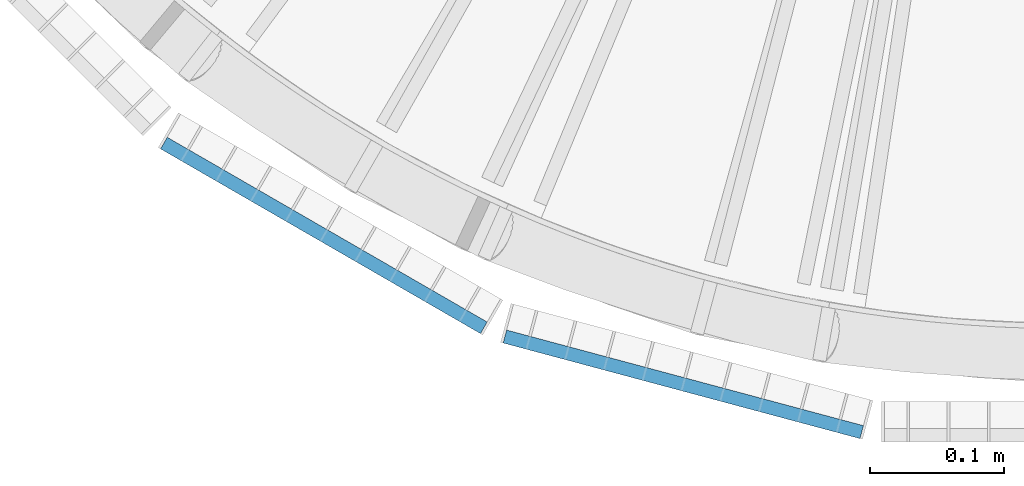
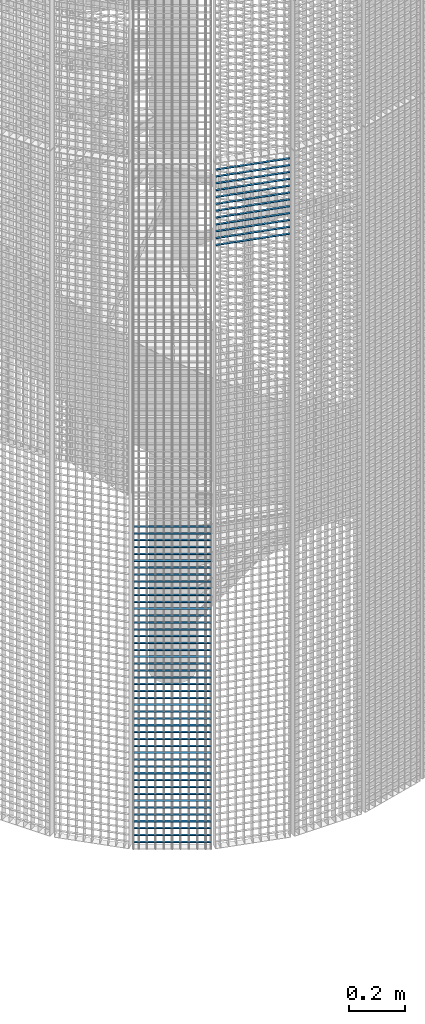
# One storey, part 371 of 1148: 59 beams, 2 elements without a shape of their own.
"""IFC2X3 building model written with IfcOpenShell, lengths in millimetres."""

from ifc_helpers import new_model, si_unit, frame, origin_with_axes, origin_2d_with_axis, place, context, subcontext, project, spatial, rectangle, extrude, material, type_object, element, aggregate, save


model = new_model("IFC2X3")

# Units and contexts
model_context = context("Model", 3, precision=1e-05, world=origin_with_axes())
body_context = subcontext(model_context, "Body", "Model", "MODEL_VIEW")
ifc_project = project(units=[si_unit("LENGTHUNIT", "METRE", prefix="MILLI"), si_unit("AREAUNIT", "SQUARE_METRE"), si_unit("VOLUMEUNIT", "CUBIC_METRE"), si_unit("MASSUNIT", "GRAM", prefix="KILO"), si_unit("TIMEUNIT", "SECOND"), si_unit("PLANEANGLEUNIT", "RADIAN"), si_unit("SOLIDANGLEUNIT", "STERADIAN"), si_unit("THERMODYNAMICTEMPERATUREUNIT", "DEGREE_CELSIUS"), si_unit("LUMINOUSINTENSITYUNIT", "LUMEN")], contexts=[model_context])

# Site, building, storey
site_placement = place(None, origin_with_axes())
site = spatial("IfcSite", under=ifc_project, at=site_placement, Name="Undefined", CompositionType="ELEMENT")
building_placement = place(site_placement, origin_with_axes())
building = spatial("IfcBuilding", under=site, at=building_placement, Name="Undefined", CompositionType="ELEMENT")
storey_placement = place(building_placement, origin_with_axes())
storey = spatial("IfcBuildingStorey", under=building, at=storey_placement, Name="Undefined", CompositionType="ELEMENT", Elevation=0.0)

# Assembly, beams
assembly_1_placement = place(storey_placement, origin_with_axes())
assembly_1 = element("IfcElementAssembly", 1, at=assembly_1_placement, inside=storey, Name="BORDURE", AssemblyPlace="NOTDEFINED", PredefinedType="NOTDEFINED")
ifc_material = material(Name="STEEL/S235JR")
beam_type = type_object("IfcBeamType", Name="PL2*10", PredefinedType="NOTDEFINED")
beam_1_placement = place(assembly_1_placement, frame((21162.7680445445, -1033.29996828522, 1410.0), z_axis=(-0.49999999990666, -0.866025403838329, 0.0), x_axis=(-0.866025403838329, 0.499999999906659, 0.0)))
beam_1 = element("IfcBeam", 2, at=beam_1_placement, type_object=beam_type, material=ifc_material, Name="ENTRETOISE", context=body_context, shape_type="SweptSolid", body=[
    extrude(rectangle(XDim=2.0, YDim=10.0, at=origin_2d_with_axis()), frame((275.999999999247, 9.09494701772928e-13, 1.53210777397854e-14), z_axis=(-1.0, 0.0, 0.0), x_axis=(0.0, -1.0, 0.0)), (0.0, 0.0, 1.0), 276.0),
])
beam_2_placement = place(assembly_1_placement, frame((21162.7680445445, -1033.29996828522, 1380.0), z_axis=(-0.49999999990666, -0.866025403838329, 0.0), x_axis=(-0.866025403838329, 0.499999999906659, 0.0)))
beam_2 = element("IfcBeam", 3, at=beam_2_placement, type_object=beam_type, material=ifc_material, Name="ENTRETOISE", context=body_context, shape_type="SweptSolid", body=[
    extrude(rectangle(XDim=2.0, YDim=10.0, at=origin_2d_with_axis()), frame((275.999999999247, 9.09494701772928e-13, 1.53210777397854e-14), z_axis=(-1.0, 0.0, 0.0), x_axis=(0.0, -1.0, 0.0)), (0.0, 0.0, 1.0), 276.0),
])
beam_3_placement = place(assembly_1_placement, frame((21162.7680445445, -1033.29996828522, 1350.0), z_axis=(-0.49999999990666, -0.866025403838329, 0.0), x_axis=(-0.866025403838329, 0.499999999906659, 0.0)))
beam_3 = element("IfcBeam", 4, at=beam_3_placement, type_object=beam_type, material=ifc_material, Name="ENTRETOISE", context=body_context, shape_type="SweptSolid", body=[
    extrude(rectangle(XDim=2.0, YDim=10.0, at=origin_2d_with_axis()), frame((275.999999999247, 9.09494701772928e-13, 1.53210777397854e-14), z_axis=(-1.0, 0.0, 0.0), x_axis=(0.0, -1.0, 0.0)), (0.0, 0.0, 1.0), 276.0),
])
beam_4_placement = place(assembly_1_placement, frame((21162.7680445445, -1033.29996828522, 1320.0), z_axis=(-0.49999999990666, -0.866025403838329, 0.0), x_axis=(-0.866025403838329, 0.499999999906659, 0.0)))
beam_4 = element("IfcBeam", 5, at=beam_4_placement, type_object=beam_type, material=ifc_material, Name="ENTRETOISE", context=body_context, shape_type="SweptSolid", body=[
    extrude(rectangle(XDim=2.0, YDim=10.0, at=origin_2d_with_axis()), frame((275.999999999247, 9.09494701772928e-13, 1.53210777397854e-14), z_axis=(-1.0, 0.0, 0.0), x_axis=(0.0, -1.0, 0.0)), (0.0, 0.0, 1.0), 276.0),
])
beam_5_placement = place(assembly_1_placement, frame((21162.7680445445, -1033.29996828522, 1290.0), z_axis=(-0.49999999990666, -0.866025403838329, 0.0), x_axis=(-0.866025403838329, 0.499999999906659, 0.0)))
beam_5 = element("IfcBeam", 6, at=beam_5_placement, type_object=beam_type, material=ifc_material, Name="ENTRETOISE", context=body_context, shape_type="SweptSolid", body=[
    extrude(rectangle(XDim=2.0, YDim=10.0, at=origin_2d_with_axis()), frame((275.999999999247, 9.09494701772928e-13, 1.53210777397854e-14), z_axis=(-1.0, 0.0, 0.0), x_axis=(0.0, -1.0, 0.0)), (0.0, 0.0, 1.0), 276.0),
])
beam_6_placement = place(assembly_1_placement, frame((21162.7680445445, -1033.29996828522, 1260.0), z_axis=(-0.49999999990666, -0.866025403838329, 0.0), x_axis=(-0.866025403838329, 0.499999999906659, 0.0)))
beam_6 = element("IfcBeam", 7, at=beam_6_placement, type_object=beam_type, material=ifc_material, Name="ENTRETOISE", context=body_context, shape_type="SweptSolid", body=[
    extrude(rectangle(XDim=2.0, YDim=10.0, at=origin_2d_with_axis()), frame((275.999999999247, 9.09494701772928e-13, 1.53210777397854e-14), z_axis=(-1.0, 0.0, 0.0), x_axis=(0.0, -1.0, 0.0)), (0.0, 0.0, 1.0), 276.0),
])
beam_7_placement = place(assembly_1_placement, frame((21162.7680445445, -1033.29996828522, 1230.0), z_axis=(-0.49999999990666, -0.866025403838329, 0.0), x_axis=(-0.866025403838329, 0.499999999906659, 0.0)))
beam_7 = element("IfcBeam", 8, at=beam_7_placement, type_object=beam_type, material=ifc_material, Name="ENTRETOISE", context=body_context, shape_type="SweptSolid", body=[
    extrude(rectangle(XDim=2.0, YDim=10.0, at=origin_2d_with_axis()), frame((275.999999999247, 9.09494701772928e-13, 1.53210777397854e-14), z_axis=(-1.0, 0.0, 0.0), x_axis=(0.0, -1.0, 0.0)), (0.0, 0.0, 1.0), 276.0),
])
beam_8_placement = place(assembly_1_placement, frame((21162.7680445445, -1033.29996828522, 1200.0), z_axis=(-0.49999999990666, -0.866025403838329, 0.0), x_axis=(-0.866025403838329, 0.499999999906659, 0.0)))
beam_8 = element("IfcBeam", 9, at=beam_8_placement, type_object=beam_type, material=ifc_material, Name="ENTRETOISE", context=body_context, shape_type="SweptSolid", body=[
    extrude(rectangle(XDim=2.0, YDim=10.0, at=origin_2d_with_axis()), frame((275.999999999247, 9.09494701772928e-13, 1.53210777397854e-14), z_axis=(-1.0, 0.0, 0.0), x_axis=(0.0, -1.0, 0.0)), (0.0, 0.0, 1.0), 276.0),
])
beam_9_placement = place(assembly_1_placement, frame((21162.7680445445, -1033.29996828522, 1170.0), z_axis=(-0.49999999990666, -0.866025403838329, 0.0), x_axis=(-0.866025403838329, 0.499999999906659, 0.0)))
beam_9 = element("IfcBeam", 10, at=beam_9_placement, type_object=beam_type, material=ifc_material, Name="ENTRETOISE", context=body_context, shape_type="SweptSolid", body=[
    extrude(rectangle(XDim=2.0, YDim=10.0, at=origin_2d_with_axis()), frame((275.999999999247, 9.09494701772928e-13, 1.53210777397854e-14), z_axis=(-1.0, 0.0, 0.0), x_axis=(0.0, -1.0, 0.0)), (0.0, 0.0, 1.0), 276.0),
])
beam_10_placement = place(assembly_1_placement, frame((21162.7680445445, -1033.29996828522, 1140.0), z_axis=(-0.49999999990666, -0.866025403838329, 0.0), x_axis=(-0.866025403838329, 0.499999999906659, 0.0)))
beam_10 = element("IfcBeam", 11, at=beam_10_placement, type_object=beam_type, material=ifc_material, Name="ENTRETOISE", context=body_context, shape_type="SweptSolid", body=[
    extrude(rectangle(XDim=2.0, YDim=10.0, at=origin_2d_with_axis()), frame((275.999999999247, 9.09494701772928e-13, 1.53210777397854e-14), z_axis=(-1.0, 0.0, 0.0), x_axis=(0.0, -1.0, 0.0)), (0.0, 0.0, 1.0), 276.0),
])
beam_11_placement = place(assembly_1_placement, frame((21162.7680445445, -1033.29996828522, 719.999999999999), z_axis=(-0.49999999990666, -0.866025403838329, 0.0), x_axis=(-0.866025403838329, 0.499999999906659, 0.0)))
beam_11 = element("IfcBeam", 12, at=beam_11_placement, type_object=beam_type, material=ifc_material, Name="ENTRETOISE", context=body_context, shape_type="SweptSolid", body=[
    extrude(rectangle(XDim=2.0, YDim=10.0, at=origin_2d_with_axis()), frame((275.999999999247, 9.09494701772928e-13, 1.53210777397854e-14), z_axis=(-1.0, 0.0, 0.0), x_axis=(0.0, -1.0, 0.0)), (0.0, 0.0, 1.0), 276.0),
])
beam_12_placement = place(assembly_1_placement, frame((21162.7680445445, -1033.29996828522, 689.999999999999), z_axis=(-0.49999999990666, -0.866025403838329, 0.0), x_axis=(-0.866025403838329, 0.499999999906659, 0.0)))
beam_12 = element("IfcBeam", 13, at=beam_12_placement, type_object=beam_type, material=ifc_material, Name="ENTRETOISE", context=body_context, shape_type="SweptSolid", body=[
    extrude(rectangle(XDim=2.0, YDim=10.0, at=origin_2d_with_axis()), frame((275.999999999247, 9.09494701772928e-13, 1.53210777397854e-14), z_axis=(-1.0, 0.0, 0.0), x_axis=(0.0, -1.0, 0.0)), (0.0, 0.0, 1.0), 276.0),
])
beam_13_placement = place(assembly_1_placement, frame((21162.7680445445, -1033.29996828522, 749.999999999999), z_axis=(-0.49999999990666, -0.866025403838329, 0.0), x_axis=(-0.866025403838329, 0.499999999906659, 0.0)))
beam_13 = element("IfcBeam", 14, at=beam_13_placement, type_object=beam_type, material=ifc_material, Name="ENTRETOISE", context=body_context, shape_type="SweptSolid", body=[
    extrude(rectangle(XDim=2.0, YDim=10.0, at=origin_2d_with_axis()), frame((275.999999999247, 9.09494701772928e-13, 1.53210777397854e-14), z_axis=(-1.0, 0.0, 0.0), x_axis=(0.0, -1.0, 0.0)), (0.0, 0.0, 1.0), 276.0),
])
beam_14_placement = place(assembly_1_placement, frame((21162.7680445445, -1033.29996828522, 659.999999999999), z_axis=(-0.49999999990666, -0.866025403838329, 0.0), x_axis=(-0.866025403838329, 0.499999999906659, 0.0)))
beam_14 = element("IfcBeam", 15, at=beam_14_placement, type_object=beam_type, material=ifc_material, Name="ENTRETOISE", context=body_context, shape_type="SweptSolid", body=[
    extrude(rectangle(XDim=2.0, YDim=10.0, at=origin_2d_with_axis()), frame((275.999999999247, 9.09494701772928e-13, 1.53210777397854e-14), z_axis=(-1.0, 0.0, 0.0), x_axis=(0.0, -1.0, 0.0)), (0.0, 0.0, 1.0), 276.0),
])
beam_15_placement = place(assembly_1_placement, frame((21162.7680445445, -1033.29996828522, 629.999999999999), z_axis=(-0.49999999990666, -0.866025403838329, 0.0), x_axis=(-0.866025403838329, 0.499999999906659, 0.0)))
beam_15 = element("IfcBeam", 16, at=beam_15_placement, type_object=beam_type, material=ifc_material, Name="ENTRETOISE", context=body_context, shape_type="SweptSolid", body=[
    extrude(rectangle(XDim=2.0, YDim=10.0, at=origin_2d_with_axis()), frame((275.999999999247, 9.09494701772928e-13, 1.53210777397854e-14), z_axis=(-1.0, 0.0, 0.0), x_axis=(0.0, -1.0, 0.0)), (0.0, 0.0, 1.0), 276.0),
])
beam_16_placement = place(assembly_1_placement, frame((21162.7680445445, -1033.29996828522, 779.999999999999), z_axis=(-0.49999999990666, -0.866025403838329, 0.0), x_axis=(-0.866025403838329, 0.499999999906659, 0.0)))
beam_16 = element("IfcBeam", 17, at=beam_16_placement, type_object=beam_type, material=ifc_material, Name="ENTRETOISE", context=body_context, shape_type="SweptSolid", body=[
    extrude(rectangle(XDim=2.0, YDim=10.0, at=origin_2d_with_axis()), frame((275.999999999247, 9.09494701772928e-13, 1.53210777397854e-14), z_axis=(-1.0, 0.0, 0.0), x_axis=(0.0, -1.0, 0.0)), (0.0, 0.0, 1.0), 276.0),
])
beam_17_placement = place(assembly_1_placement, frame((21162.7680445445, -1033.29996828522, 599.999999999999), z_axis=(-0.49999999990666, -0.866025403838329, 0.0), x_axis=(-0.866025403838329, 0.499999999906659, 0.0)))
beam_17 = element("IfcBeam", 18, at=beam_17_placement, type_object=beam_type, material=ifc_material, Name="ENTRETOISE", context=body_context, shape_type="SweptSolid", body=[
    extrude(rectangle(XDim=2.0, YDim=10.0, at=origin_2d_with_axis()), frame((275.999999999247, 9.09494701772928e-13, 1.53210777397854e-14), z_axis=(-1.0, 0.0, 0.0), x_axis=(0.0, -1.0, 0.0)), (0.0, 0.0, 1.0), 276.0),
])
beam_18_placement = place(assembly_1_placement, frame((21162.7680445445, -1033.29996828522, 809.999999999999), z_axis=(-0.49999999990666, -0.866025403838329, 0.0), x_axis=(-0.866025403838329, 0.499999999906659, 0.0)))
beam_18 = element("IfcBeam", 19, at=beam_18_placement, type_object=beam_type, material=ifc_material, Name="ENTRETOISE", context=body_context, shape_type="SweptSolid", body=[
    extrude(rectangle(XDim=2.0, YDim=10.0, at=origin_2d_with_axis()), frame((275.999999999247, 9.09494701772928e-13, 1.53210777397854e-14), z_axis=(-1.0, 0.0, 0.0), x_axis=(0.0, -1.0, 0.0)), (0.0, 0.0, 1.0), 276.0),
])
beam_19_placement = place(assembly_1_placement, frame((21162.7680445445, -1033.29996828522, 569.999999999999), z_axis=(-0.49999999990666, -0.866025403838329, 0.0), x_axis=(-0.866025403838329, 0.499999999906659, 0.0)))
beam_19 = element("IfcBeam", 20, at=beam_19_placement, type_object=beam_type, material=ifc_material, Name="ENTRETOISE", context=body_context, shape_type="SweptSolid", body=[
    extrude(rectangle(XDim=2.0, YDim=10.0, at=origin_2d_with_axis()), frame((275.999999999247, 9.09494701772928e-13, 1.53210777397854e-14), z_axis=(-1.0, 0.0, 0.0), x_axis=(0.0, -1.0, 0.0)), (0.0, 0.0, 1.0), 276.0),
])
beam_20_placement = place(assembly_1_placement, frame((21162.7680445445, -1033.29996828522, 539.999999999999), z_axis=(-0.49999999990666, -0.866025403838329, 0.0), x_axis=(-0.866025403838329, 0.499999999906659, 0.0)))
beam_20 = element("IfcBeam", 21, at=beam_20_placement, type_object=beam_type, material=ifc_material, Name="ENTRETOISE", context=body_context, shape_type="SweptSolid", body=[
    extrude(rectangle(XDim=2.0, YDim=10.0, at=origin_2d_with_axis()), frame((275.999999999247, 9.09494701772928e-13, 1.53210777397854e-14), z_axis=(-1.0, 0.0, 0.0), x_axis=(0.0, -1.0, 0.0)), (0.0, 0.0, 1.0), 276.0),
])
beam_21_placement = place(assembly_1_placement, frame((21162.7680445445, -1033.29996828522, 839.999999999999), z_axis=(-0.49999999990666, -0.866025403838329, 0.0), x_axis=(-0.866025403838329, 0.499999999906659, 0.0)))
beam_21 = element("IfcBeam", 22, at=beam_21_placement, type_object=beam_type, material=ifc_material, Name="ENTRETOISE", context=body_context, shape_type="SweptSolid", body=[
    extrude(rectangle(XDim=2.0, YDim=10.0, at=origin_2d_with_axis()), frame((275.999999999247, 9.09494701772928e-13, 1.53210777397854e-14), z_axis=(-1.0, 0.0, 0.0), x_axis=(0.0, -1.0, 0.0)), (0.0, 0.0, 1.0), 276.0),
])
beam_22_placement = place(assembly_1_placement, frame((21162.7680445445, -1033.29996828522, 509.999999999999), z_axis=(-0.49999999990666, -0.866025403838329, 0.0), x_axis=(-0.866025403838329, 0.499999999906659, 0.0)))
beam_22 = element("IfcBeam", 23, at=beam_22_placement, type_object=beam_type, material=ifc_material, Name="ENTRETOISE", context=body_context, shape_type="SweptSolid", body=[
    extrude(rectangle(XDim=2.0, YDim=10.0, at=origin_2d_with_axis()), frame((275.999999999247, 9.09494701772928e-13, 1.53210777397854e-14), z_axis=(-1.0, 0.0, 0.0), x_axis=(0.0, -1.0, 0.0)), (0.0, 0.0, 1.0), 276.0),
])
beam_23_placement = place(assembly_1_placement, frame((21162.7680445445, -1033.29996828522, 479.999999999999), z_axis=(-0.49999999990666, -0.866025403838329, 0.0), x_axis=(-0.866025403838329, 0.499999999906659, 0.0)))
beam_23 = element("IfcBeam", 24, at=beam_23_placement, type_object=beam_type, material=ifc_material, Name="ENTRETOISE", context=body_context, shape_type="SweptSolid", body=[
    extrude(rectangle(XDim=2.0, YDim=10.0, at=origin_2d_with_axis()), frame((275.999999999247, 9.09494701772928e-13, 1.53210777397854e-14), z_axis=(-1.0, 0.0, 0.0), x_axis=(0.0, -1.0, 0.0)), (0.0, 0.0, 1.0), 276.0),
])
beam_24_placement = place(assembly_1_placement, frame((21162.7680445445, -1033.29996828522, 869.999999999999), z_axis=(-0.49999999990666, -0.866025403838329, 0.0), x_axis=(-0.866025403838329, 0.499999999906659, 0.0)))
beam_24 = element("IfcBeam", 25, at=beam_24_placement, type_object=beam_type, material=ifc_material, Name="ENTRETOISE", context=body_context, shape_type="SweptSolid", body=[
    extrude(rectangle(XDim=2.0, YDim=10.0, at=origin_2d_with_axis()), frame((275.999999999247, 9.09494701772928e-13, 1.53210777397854e-14), z_axis=(-1.0, 0.0, 0.0), x_axis=(0.0, -1.0, 0.0)), (0.0, 0.0, 1.0), 276.0),
])
beam_25_placement = place(assembly_1_placement, frame((21162.7680445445, -1033.29996828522, 449.999999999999), z_axis=(-0.49999999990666, -0.866025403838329, 0.0), x_axis=(-0.866025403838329, 0.499999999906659, 0.0)))
beam_25 = element("IfcBeam", 26, at=beam_25_placement, type_object=beam_type, material=ifc_material, Name="ENTRETOISE", context=body_context, shape_type="SweptSolid", body=[
    extrude(rectangle(XDim=2.0, YDim=10.0, at=origin_2d_with_axis()), frame((275.999999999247, 9.09494701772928e-13, 1.53210777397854e-14), z_axis=(-1.0, 0.0, 0.0), x_axis=(0.0, -1.0, 0.0)), (0.0, 0.0, 1.0), 276.0),
])
beam_26_placement = place(assembly_1_placement, frame((21162.7680445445, -1033.29996828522, 419.999999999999), z_axis=(-0.49999999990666, -0.866025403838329, 0.0), x_axis=(-0.866025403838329, 0.499999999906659, 0.0)))
beam_26 = element("IfcBeam", 27, at=beam_26_placement, type_object=beam_type, material=ifc_material, Name="ENTRETOISE", context=body_context, shape_type="SweptSolid", body=[
    extrude(rectangle(XDim=2.0, YDim=10.0, at=origin_2d_with_axis()), frame((275.999999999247, 9.09494701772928e-13, 1.53210777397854e-14), z_axis=(-1.0, 0.0, 0.0), x_axis=(0.0, -1.0, 0.0)), (0.0, 0.0, 1.0), 276.0),
])
beam_27_placement = place(assembly_1_placement, frame((21162.7680445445, -1033.29996828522, 899.999999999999), z_axis=(-0.49999999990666, -0.866025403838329, 0.0), x_axis=(-0.866025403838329, 0.499999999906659, 0.0)))
beam_27 = element("IfcBeam", 28, at=beam_27_placement, type_object=beam_type, material=ifc_material, Name="ENTRETOISE", context=body_context, shape_type="SweptSolid", body=[
    extrude(rectangle(XDim=2.0, YDim=10.0, at=origin_2d_with_axis()), frame((275.999999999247, 9.09494701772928e-13, 1.53210777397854e-14), z_axis=(-1.0, 0.0, 0.0), x_axis=(0.0, -1.0, 0.0)), (0.0, 0.0, 1.0), 276.0),
])
beam_28_placement = place(assembly_1_placement, frame((21162.7680445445, -1033.29996828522, 389.999999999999), z_axis=(-0.49999999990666, -0.866025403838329, 0.0), x_axis=(-0.866025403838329, 0.499999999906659, 0.0)))
beam_28 = element("IfcBeam", 29, at=beam_28_placement, type_object=beam_type, material=ifc_material, Name="ENTRETOISE", context=body_context, shape_type="SweptSolid", body=[
    extrude(rectangle(XDim=2.0, YDim=10.0, at=origin_2d_with_axis()), frame((275.999999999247, 9.09494701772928e-13, 1.53210777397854e-14), z_axis=(-1.0, 0.0, 0.0), x_axis=(0.0, -1.0, 0.0)), (0.0, 0.0, 1.0), 276.0),
])
beam_29_placement = place(assembly_1_placement, frame((21162.7680445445, -1033.29996828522, 929.999999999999), z_axis=(-0.49999999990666, -0.866025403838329, 0.0), x_axis=(-0.866025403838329, 0.499999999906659, 0.0)))
beam_29 = element("IfcBeam", 30, at=beam_29_placement, type_object=beam_type, material=ifc_material, Name="ENTRETOISE", context=body_context, shape_type="SweptSolid", body=[
    extrude(rectangle(XDim=2.0, YDim=10.0, at=origin_2d_with_axis()), frame((275.999999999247, 9.09494701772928e-13, 1.53210777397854e-14), z_axis=(-1.0, 0.0, 0.0), x_axis=(0.0, -1.0, 0.0)), (0.0, 0.0, 1.0), 276.0),
])
beam_30_placement = place(assembly_1_placement, frame((21162.7680445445, -1033.29996828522, 359.999999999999), z_axis=(-0.49999999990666, -0.866025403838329, 0.0), x_axis=(-0.866025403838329, 0.499999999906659, 0.0)))
beam_30 = element("IfcBeam", 31, at=beam_30_placement, type_object=beam_type, material=ifc_material, Name="ENTRETOISE", context=body_context, shape_type="SweptSolid", body=[
    extrude(rectangle(XDim=2.0, YDim=10.0, at=origin_2d_with_axis()), frame((275.999999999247, 9.09494701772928e-13, 1.53210777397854e-14), z_axis=(-1.0, 0.0, 0.0), x_axis=(0.0, -1.0, 0.0)), (0.0, 0.0, 1.0), 276.0),
])
beam_31_placement = place(assembly_1_placement, frame((21162.7680445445, -1033.29996828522, 329.999999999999), z_axis=(-0.49999999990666, -0.866025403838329, 0.0), x_axis=(-0.866025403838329, 0.499999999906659, 0.0)))
beam_31 = element("IfcBeam", 32, at=beam_31_placement, type_object=beam_type, material=ifc_material, Name="ENTRETOISE", context=body_context, shape_type="SweptSolid", body=[
    extrude(rectangle(XDim=2.0, YDim=10.0, at=origin_2d_with_axis()), frame((275.999999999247, 9.09494701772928e-13, 1.53210777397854e-14), z_axis=(-1.0, 0.0, 0.0), x_axis=(0.0, -1.0, 0.0)), (0.0, 0.0, 1.0), 276.0),
])
beam_32_placement = place(assembly_1_placement, frame((21162.7680445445, -1033.29996828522, 959.999999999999), z_axis=(-0.49999999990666, -0.866025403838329, 0.0), x_axis=(-0.866025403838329, 0.499999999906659, 0.0)))
beam_32 = element("IfcBeam", 33, at=beam_32_placement, type_object=beam_type, material=ifc_material, Name="ENTRETOISE", context=body_context, shape_type="SweptSolid", body=[
    extrude(rectangle(XDim=2.0, YDim=10.0, at=origin_2d_with_axis()), frame((275.999999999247, 9.09494701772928e-13, 1.53210777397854e-14), z_axis=(-1.0, 0.0, 0.0), x_axis=(0.0, -1.0, 0.0)), (0.0, 0.0, 1.0), 276.0),
])
beam_33_placement = place(assembly_1_placement, frame((21162.7680445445, -1033.29996828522, 299.999999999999), z_axis=(-0.49999999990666, -0.866025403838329, 0.0), x_axis=(-0.866025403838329, 0.499999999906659, 0.0)))
beam_33 = element("IfcBeam", 34, at=beam_33_placement, type_object=beam_type, material=ifc_material, Name="ENTRETOISE", context=body_context, shape_type="SweptSolid", body=[
    extrude(rectangle(XDim=2.0, YDim=10.0, at=origin_2d_with_axis()), frame((275.999999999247, 9.09494701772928e-13, 1.53210777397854e-14), z_axis=(-1.0, 0.0, 0.0), x_axis=(0.0, -1.0, 0.0)), (0.0, 0.0, 1.0), 276.0),
])
beam_34_placement = place(assembly_1_placement, frame((21162.7680445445, -1033.29996828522, 269.999999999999), z_axis=(-0.49999999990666, -0.866025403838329, 0.0), x_axis=(-0.866025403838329, 0.499999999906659, 0.0)))
beam_34 = element("IfcBeam", 35, at=beam_34_placement, type_object=beam_type, material=ifc_material, Name="ENTRETOISE", context=body_context, shape_type="SweptSolid", body=[
    extrude(rectangle(XDim=2.0, YDim=10.0, at=origin_2d_with_axis()), frame((275.999999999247, 9.09494701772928e-13, 1.53210777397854e-14), z_axis=(-1.0, 0.0, 0.0), x_axis=(0.0, -1.0, 0.0)), (0.0, 0.0, 1.0), 276.0),
])
beam_35_placement = place(assembly_1_placement, frame((21162.7680445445, -1033.29996828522, 989.999999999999), z_axis=(-0.49999999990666, -0.866025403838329, 0.0), x_axis=(-0.866025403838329, 0.499999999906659, 0.0)))
beam_35 = element("IfcBeam", 36, at=beam_35_placement, type_object=beam_type, material=ifc_material, Name="ENTRETOISE", context=body_context, shape_type="SweptSolid", body=[
    extrude(rectangle(XDim=2.0, YDim=10.0, at=origin_2d_with_axis()), frame((275.999999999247, 9.09494701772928e-13, 1.53210777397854e-14), z_axis=(-1.0, 0.0, 0.0), x_axis=(0.0, -1.0, 0.0)), (0.0, 0.0, 1.0), 276.0),
])
beam_36_placement = place(assembly_1_placement, frame((21162.7680445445, -1033.29996828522, 239.999999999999), z_axis=(-0.49999999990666, -0.866025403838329, 0.0), x_axis=(-0.866025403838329, 0.499999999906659, 0.0)))
beam_36 = element("IfcBeam", 37, at=beam_36_placement, type_object=beam_type, material=ifc_material, Name="ENTRETOISE", context=body_context, shape_type="SweptSolid", body=[
    extrude(rectangle(XDim=2.0, YDim=10.0, at=origin_2d_with_axis()), frame((275.999999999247, 9.09494701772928e-13, 1.53210777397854e-14), z_axis=(-1.0, 0.0, 0.0), x_axis=(0.0, -1.0, 0.0)), (0.0, 0.0, 1.0), 276.0),
])
beam_37_placement = place(assembly_1_placement, frame((21162.7680445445, -1033.29996828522, 1020.0), z_axis=(-0.49999999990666, -0.866025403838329, 0.0), x_axis=(-0.866025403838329, 0.499999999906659, 0.0)))
beam_37 = element("IfcBeam", 38, at=beam_37_placement, type_object=beam_type, material=ifc_material, Name="ENTRETOISE", context=body_context, shape_type="SweptSolid", body=[
    extrude(rectangle(XDim=2.0, YDim=10.0, at=origin_2d_with_axis()), frame((275.999999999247, 9.09494701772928e-13, 1.53210777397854e-14), z_axis=(-1.0, 0.0, 0.0), x_axis=(0.0, -1.0, 0.0)), (0.0, 0.0, 1.0), 276.0),
])
beam_38_placement = place(assembly_1_placement, frame((21162.7680445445, -1033.29996828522, 209.999999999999), z_axis=(-0.49999999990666, -0.866025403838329, 0.0), x_axis=(-0.866025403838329, 0.499999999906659, 0.0)))
beam_38 = element("IfcBeam", 39, at=beam_38_placement, type_object=beam_type, material=ifc_material, Name="ENTRETOISE", context=body_context, shape_type="SweptSolid", body=[
    extrude(rectangle(XDim=2.0, YDim=10.0, at=origin_2d_with_axis()), frame((275.999999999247, 9.09494701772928e-13, 1.53210777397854e-14), z_axis=(-1.0, 0.0, 0.0), x_axis=(0.0, -1.0, 0.0)), (0.0, 0.0, 1.0), 276.0),
])
beam_39_placement = place(assembly_1_placement, frame((21162.7680445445, -1033.29996828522, 179.999999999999), z_axis=(-0.49999999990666, -0.866025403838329, 0.0), x_axis=(-0.866025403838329, 0.499999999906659, 0.0)))
beam_39 = element("IfcBeam", 40, at=beam_39_placement, type_object=beam_type, material=ifc_material, Name="ENTRETOISE", context=body_context, shape_type="SweptSolid", body=[
    extrude(rectangle(XDim=2.0, YDim=10.0, at=origin_2d_with_axis()), frame((275.999999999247, 9.09494701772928e-13, 1.53210777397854e-14), z_axis=(-1.0, 0.0, 0.0), x_axis=(0.0, -1.0, 0.0)), (0.0, 0.0, 1.0), 276.0),
])
beam_40_placement = place(assembly_1_placement, frame((21162.7680445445, -1033.29996828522, 1050.0), z_axis=(-0.49999999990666, -0.866025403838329, 0.0), x_axis=(-0.866025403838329, 0.499999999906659, 0.0)))
beam_40 = element("IfcBeam", 41, at=beam_40_placement, type_object=beam_type, material=ifc_material, Name="ENTRETOISE", context=body_context, shape_type="SweptSolid", body=[
    extrude(rectangle(XDim=2.0, YDim=10.0, at=origin_2d_with_axis()), frame((275.999999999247, 9.09494701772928e-13, 1.53210777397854e-14), z_axis=(-1.0, 0.0, 0.0), x_axis=(0.0, -1.0, 0.0)), (0.0, 0.0, 1.0), 276.0),
])
beam_41_placement = place(assembly_1_placement, frame((21162.7680445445, -1033.29996828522, 149.999999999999), z_axis=(-0.49999999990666, -0.866025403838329, 0.0), x_axis=(-0.866025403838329, 0.499999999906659, 0.0)))
beam_41 = element("IfcBeam", 42, at=beam_41_placement, type_object=beam_type, material=ifc_material, Name="ENTRETOISE", context=body_context, shape_type="SweptSolid", body=[
    extrude(rectangle(XDim=2.0, YDim=10.0, at=origin_2d_with_axis()), frame((275.999999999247, 9.09494701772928e-13, 1.53210777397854e-14), z_axis=(-1.0, 0.0, 0.0), x_axis=(0.0, -1.0, 0.0)), (0.0, 0.0, 1.0), 276.0),
])
beam_42_placement = place(assembly_1_placement, frame((21162.7680445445, -1033.29996828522, 119.999999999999), z_axis=(-0.49999999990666, -0.866025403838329, 0.0), x_axis=(-0.866025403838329, 0.499999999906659, 0.0)))
beam_42 = element("IfcBeam", 43, at=beam_42_placement, type_object=beam_type, material=ifc_material, Name="ENTRETOISE", context=body_context, shape_type="SweptSolid", body=[
    extrude(rectangle(XDim=2.0, YDim=10.0, at=origin_2d_with_axis()), frame((275.999999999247, 9.09494701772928e-13, 1.53210777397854e-14), z_axis=(-1.0, 0.0, 0.0), x_axis=(0.0, -1.0, 0.0)), (0.0, 0.0, 1.0), 276.0),
])
beam_43_placement = place(assembly_1_placement, frame((21162.7680445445, -1033.29996828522, 1080.0), z_axis=(-0.49999999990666, -0.866025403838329, 0.0), x_axis=(-0.866025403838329, 0.499999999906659, 0.0)))
beam_43 = element("IfcBeam", 44, at=beam_43_placement, type_object=beam_type, material=ifc_material, Name="ENTRETOISE", context=body_context, shape_type="SweptSolid", body=[
    extrude(rectangle(XDim=2.0, YDim=10.0, at=origin_2d_with_axis()), frame((275.999999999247, 9.09494701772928e-13, 1.53210777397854e-14), z_axis=(-1.0, 0.0, 0.0), x_axis=(0.0, -1.0, 0.0)), (0.0, 0.0, 1.0), 276.0),
])
beam_44_placement = place(assembly_1_placement, frame((21162.7680445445, -1033.29996828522, 89.9999999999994), z_axis=(-0.49999999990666, -0.866025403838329, 0.0), x_axis=(-0.866025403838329, 0.499999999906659, 0.0)))
beam_44 = element("IfcBeam", 45, at=beam_44_placement, type_object=beam_type, material=ifc_material, Name="ENTRETOISE", context=body_context, shape_type="SweptSolid", body=[
    extrude(rectangle(XDim=2.0, YDim=10.0, at=origin_2d_with_axis()), frame((275.999999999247, 9.09494701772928e-13, 1.53210777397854e-14), z_axis=(-1.0, 0.0, 0.0), x_axis=(0.0, -1.0, 0.0)), (0.0, 0.0, 1.0), 276.0),
])
beam_45_placement = place(assembly_1_placement, frame((21162.7680445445, -1033.29996828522, 59.9999999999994), z_axis=(-0.49999999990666, -0.866025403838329, 0.0), x_axis=(-0.866025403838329, 0.499999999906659, 0.0)))
beam_45 = element("IfcBeam", 46, at=beam_45_placement, type_object=beam_type, material=ifc_material, Name="ENTRETOISE", context=body_context, shape_type="SweptSolid", body=[
    extrude(rectangle(XDim=2.0, YDim=10.0, at=origin_2d_with_axis()), frame((275.999999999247, 9.09494701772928e-13, 1.53210777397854e-14), z_axis=(-1.0, 0.0, 0.0), x_axis=(0.0, -1.0, 0.0)), (0.0, 0.0, 1.0), 276.0),
])
beam_46_placement = place(assembly_1_placement, frame((21162.7680445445, -1033.29996828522, 1110.0), z_axis=(-0.49999999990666, -0.866025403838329, 0.0), x_axis=(-0.866025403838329, 0.499999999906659, 0.0)))
beam_46 = element("IfcBeam", 47, at=beam_46_placement, type_object=beam_type, material=ifc_material, Name="ENTRETOISE", context=body_context, shape_type="SweptSolid", body=[
    extrude(rectangle(XDim=2.0, YDim=10.0, at=origin_2d_with_axis()), frame((275.999999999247, 9.09494701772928e-13, 1.53210777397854e-14), z_axis=(-1.0, 0.0, 0.0), x_axis=(0.0, -1.0, 0.0)), (0.0, 0.0, 1.0), 276.0),
])
beam_47_placement = place(assembly_1_placement, frame((21162.7680445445, -1033.29996828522, 29.9999999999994), z_axis=(-0.49999999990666, -0.866025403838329, 0.0), x_axis=(-0.866025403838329, 0.499999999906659, 0.0)))
beam_47 = element("IfcBeam", 48, at=beam_47_placement, type_object=beam_type, material=ifc_material, Name="ENTRETOISE", context=body_context, shape_type="SweptSolid", body=[
    extrude(rectangle(XDim=2.0, YDim=10.0, at=origin_2d_with_axis()), frame((275.999999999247, 9.09494701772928e-13, 1.53210777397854e-14), z_axis=(-1.0, 0.0, 0.0), x_axis=(0.0, -1.0, 0.0)), (0.0, 0.0, 1.0), 276.0),
])
aggregate(assembly_1, [beam_1, beam_2, beam_3, beam_4, beam_5, beam_6, beam_7, beam_8, beam_9, beam_10, beam_11, beam_12, beam_13, beam_14, beam_15, beam_16, beam_17, beam_18, beam_19, beam_20, beam_21, beam_22, beam_23, beam_24, beam_25, beam_26, beam_27, beam_28, beam_29, beam_30, beam_31, beam_32, beam_33, beam_34, beam_35, beam_36, beam_37, beam_38, beam_39, beam_40, beam_41, beam_42, beam_43, beam_44, beam_45, beam_46, beam_47])

assembly_2_placement = place(storey_placement, origin_with_axes())
assembly_2 = element("IfcElementAssembly", 49, at=assembly_2_placement, inside=storey, Name="BORDURE", AssemblyPlace="NOTDEFINED", PredefinedType="NOTDEFINED")
beam_48_placement = place(assembly_2_placement, frame((21445.1040732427, -1111.25508286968, 2970.0), z_axis=(-0.258819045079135, -0.965925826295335, 0.0), x_axis=(-0.965925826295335, 0.258819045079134, 0.0)))
beam_48 = element("IfcBeam", 50, at=beam_48_placement, type_object=beam_type, material=ifc_material, Name="ENTRETOISE", context=body_context, shape_type="SweptSolid", body=[
    extrude(rectangle(XDim=2.0, YDim=10.0, at=origin_2d_with_axis()), frame((275.999999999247, 9.09494701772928e-13, 1.53210777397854e-14), z_axis=(-1.0, 0.0, 0.0), x_axis=(0.0, -1.0, 0.0)), (0.0, 0.0, 1.0), 276.0),
])
beam_49_placement = place(assembly_2_placement, frame((21445.1040732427, -1111.25508286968, 2940.0), z_axis=(-0.258819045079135, -0.965925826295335, 0.0), x_axis=(-0.965925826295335, 0.258819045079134, 0.0)))
beam_49 = element("IfcBeam", 51, at=beam_49_placement, type_object=beam_type, material=ifc_material, Name="ENTRETOISE", context=body_context, shape_type="SweptSolid", body=[
    extrude(rectangle(XDim=2.0, YDim=10.0, at=origin_2d_with_axis()), frame((275.999999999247, 9.09494701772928e-13, 1.53210777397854e-14), z_axis=(-1.0, 0.0, 0.0), x_axis=(0.0, -1.0, 0.0)), (0.0, 0.0, 1.0), 276.0),
])
beam_50_placement = place(assembly_2_placement, frame((21445.1040732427, -1111.25508286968, 2910.0), z_axis=(-0.258819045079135, -0.965925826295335, 0.0), x_axis=(-0.965925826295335, 0.258819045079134, 0.0)))
beam_50 = element("IfcBeam", 52, at=beam_50_placement, type_object=beam_type, material=ifc_material, Name="ENTRETOISE", context=body_context, shape_type="SweptSolid", body=[
    extrude(rectangle(XDim=2.0, YDim=10.0, at=origin_2d_with_axis()), frame((275.999999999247, 9.09494701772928e-13, 1.53210777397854e-14), z_axis=(-1.0, 0.0, 0.0), x_axis=(0.0, -1.0, 0.0)), (0.0, 0.0, 1.0), 276.0),
])
beam_51_placement = place(assembly_2_placement, frame((21445.1040732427, -1111.25508286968, 2880.0), z_axis=(-0.258819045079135, -0.965925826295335, 0.0), x_axis=(-0.965925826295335, 0.258819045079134, 0.0)))
beam_51 = element("IfcBeam", 53, at=beam_51_placement, type_object=beam_type, material=ifc_material, Name="ENTRETOISE", context=body_context, shape_type="SweptSolid", body=[
    extrude(rectangle(XDim=2.0, YDim=10.0, at=origin_2d_with_axis()), frame((275.999999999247, 9.09494701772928e-13, 1.53210777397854e-14), z_axis=(-1.0, 0.0, 0.0), x_axis=(0.0, -1.0, 0.0)), (0.0, 0.0, 1.0), 276.0),
])
beam_52_placement = place(assembly_2_placement, frame((21445.1040732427, -1111.25508286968, 2850.0), z_axis=(-0.258819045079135, -0.965925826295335, 0.0), x_axis=(-0.965925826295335, 0.258819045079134, 0.0)))
beam_52 = element("IfcBeam", 54, at=beam_52_placement, type_object=beam_type, material=ifc_material, Name="ENTRETOISE", context=body_context, shape_type="SweptSolid", body=[
    extrude(rectangle(XDim=2.0, YDim=10.0, at=origin_2d_with_axis()), frame((275.999999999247, 9.09494701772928e-13, 1.53210777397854e-14), z_axis=(-1.0, 0.0, 0.0), x_axis=(0.0, -1.0, 0.0)), (0.0, 0.0, 1.0), 276.0),
])
beam_53_placement = place(assembly_2_placement, frame((21445.1040732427, -1111.25508286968, 2820.0), z_axis=(-0.258819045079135, -0.965925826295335, 0.0), x_axis=(-0.965925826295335, 0.258819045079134, 0.0)))
beam_53 = element("IfcBeam", 55, at=beam_53_placement, type_object=beam_type, material=ifc_material, Name="ENTRETOISE", context=body_context, shape_type="SweptSolid", body=[
    extrude(rectangle(XDim=2.0, YDim=10.0, at=origin_2d_with_axis()), frame((275.999999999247, 9.09494701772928e-13, 1.53210777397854e-14), z_axis=(-1.0, 0.0, 0.0), x_axis=(0.0, -1.0, 0.0)), (0.0, 0.0, 1.0), 276.0),
])
beam_54_placement = place(assembly_2_placement, frame((21445.1040732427, -1111.25508286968, 2790.0), z_axis=(-0.258819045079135, -0.965925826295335, 0.0), x_axis=(-0.965925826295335, 0.258819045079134, 0.0)))
beam_54 = element("IfcBeam", 56, at=beam_54_placement, type_object=beam_type, material=ifc_material, Name="ENTRETOISE", context=body_context, shape_type="SweptSolid", body=[
    extrude(rectangle(XDim=2.0, YDim=10.0, at=origin_2d_with_axis()), frame((275.999999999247, 9.09494701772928e-13, 1.53210777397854e-14), z_axis=(-1.0, 0.0, 0.0), x_axis=(0.0, -1.0, 0.0)), (0.0, 0.0, 1.0), 276.0),
])
beam_55_placement = place(assembly_2_placement, frame((21445.1040732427, -1111.25508286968, 2760.0), z_axis=(-0.258819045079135, -0.965925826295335, 0.0), x_axis=(-0.965925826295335, 0.258819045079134, 0.0)))
beam_55 = element("IfcBeam", 57, at=beam_55_placement, type_object=beam_type, material=ifc_material, Name="ENTRETOISE", context=body_context, shape_type="SweptSolid", body=[
    extrude(rectangle(XDim=2.0, YDim=10.0, at=origin_2d_with_axis()), frame((275.999999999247, 9.09494701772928e-13, 1.53210777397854e-14), z_axis=(-1.0, 0.0, 0.0), x_axis=(0.0, -1.0, 0.0)), (0.0, 0.0, 1.0), 276.0),
])
beam_56_placement = place(assembly_2_placement, frame((21445.1040732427, -1111.25508286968, 2730.0), z_axis=(-0.258819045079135, -0.965925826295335, 0.0), x_axis=(-0.965925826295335, 0.258819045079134, 0.0)))
beam_56 = element("IfcBeam", 58, at=beam_56_placement, type_object=beam_type, material=ifc_material, Name="ENTRETOISE", context=body_context, shape_type="SweptSolid", body=[
    extrude(rectangle(XDim=2.0, YDim=10.0, at=origin_2d_with_axis()), frame((275.999999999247, 9.09494701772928e-13, 1.53210777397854e-14), z_axis=(-1.0, 0.0, 0.0), x_axis=(0.0, -1.0, 0.0)), (0.0, 0.0, 1.0), 276.0),
])
beam_57_placement = place(assembly_2_placement, frame((21445.1040732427, -1111.25508286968, 2700.0), z_axis=(-0.258819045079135, -0.965925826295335, 0.0), x_axis=(-0.965925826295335, 0.258819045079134, 0.0)))
beam_57 = element("IfcBeam", 59, at=beam_57_placement, type_object=beam_type, material=ifc_material, Name="ENTRETOISE", context=body_context, shape_type="SweptSolid", body=[
    extrude(rectangle(XDim=2.0, YDim=10.0, at=origin_2d_with_axis()), frame((275.999999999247, 9.09494701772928e-13, 1.53210777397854e-14), z_axis=(-1.0, 0.0, 0.0), x_axis=(0.0, -1.0, 0.0)), (0.0, 0.0, 1.0), 276.0),
])
beam_58_placement = place(assembly_2_placement, frame((21445.1040732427, -1111.25508286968, 2670.0), z_axis=(-0.258819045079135, -0.965925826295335, 0.0), x_axis=(-0.965925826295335, 0.258819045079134, 0.0)))
beam_58 = element("IfcBeam", 60, at=beam_58_placement, type_object=beam_type, material=ifc_material, Name="ENTRETOISE", context=body_context, shape_type="SweptSolid", body=[
    extrude(rectangle(XDim=2.0, YDim=10.0, at=origin_2d_with_axis()), frame((275.999999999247, 9.09494701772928e-13, 1.53210777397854e-14), z_axis=(-1.0, 0.0, 0.0), x_axis=(0.0, -1.0, 0.0)), (0.0, 0.0, 1.0), 276.0),
])
beam_59_placement = place(assembly_2_placement, frame((21445.1040732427, -1111.25508286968, 2640.0), z_axis=(-0.258819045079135, -0.965925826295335, 0.0), x_axis=(-0.965925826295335, 0.258819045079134, 0.0)))
beam_59 = element("IfcBeam", 61, at=beam_59_placement, type_object=beam_type, material=ifc_material, Name="ENTRETOISE", context=body_context, shape_type="SweptSolid", body=[
    extrude(rectangle(XDim=2.0, YDim=10.0, at=origin_2d_with_axis()), frame((275.999999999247, 9.09494701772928e-13, 1.53210777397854e-14), z_axis=(-1.0, 0.0, 0.0), x_axis=(0.0, -1.0, 0.0)), (0.0, 0.0, 1.0), 276.0),
])
aggregate(assembly_2, [beam_48, beam_49, beam_50, beam_51, beam_52, beam_53, beam_54, beam_55, beam_56, beam_57, beam_58, beam_59])

save(model, "model.ifc")
